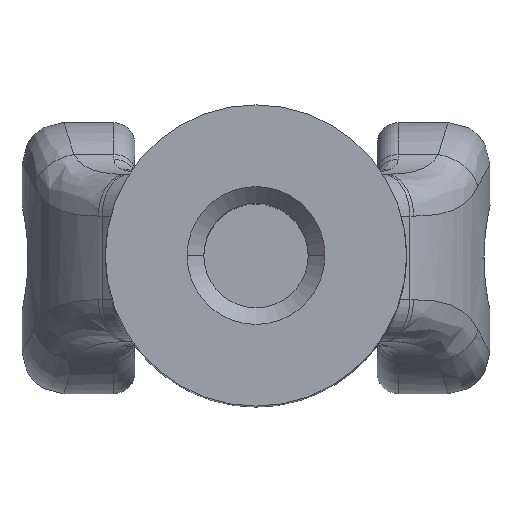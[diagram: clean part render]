
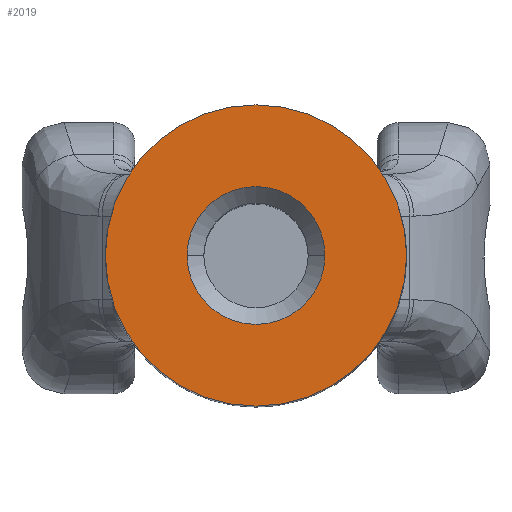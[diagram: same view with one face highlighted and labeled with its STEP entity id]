
A CAD part, top view. The second image highlights one B-rep face of the part: STEP entity #2019.
In plain terms, the highlighted planar face has unit normal (0, 0, 1).
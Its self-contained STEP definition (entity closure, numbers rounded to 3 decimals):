
#524 = DIRECTION ( 'NONE',  ( 1., 0., 0. ) ) ;
#751 = DIRECTION ( 'NONE',  ( 0., 0., -1. ) ) ;
#897 = DIRECTION ( 'NONE',  ( 1., 0., 0. ) ) ;
#920 = CIRCLE ( 'NONE', #6041, 1.65 ) ;
#1069 = CARTESIAN_POINT ( 'NONE',  ( 0., 0., 37. ) ) ;
#1084 = AXIS2_PLACEMENT_3D ( 'NONE', #5486, #3060, #3674 ) ;
#1177 = AXIS2_PLACEMENT_3D ( 'NONE', #3290, #4389, #897 ) ;
#1618 = AXIS2_PLACEMENT_3D ( 'NONE', #3651, #4204, #7184 ) ;
#1657 = AXIS2_PLACEMENT_3D ( 'NONE', #1069, #7463, #524 ) ;
#2005 = EDGE_CURVE ( 'NONE', #6727, #4428, #4680, .T. ) ;
#2019 = ADVANCED_FACE ( 'NONE', ( #4575, #2579 ), #2503, .T. ) ;
#2062 = EDGE_LOOP ( 'NONE', ( #6094, #3876 ) ) ;
#2503 = PLANE ( 'NONE',  #1618 ) ;
#2525 = EDGE_CURVE ( 'NONE', #6529, #6662, #7425, .T. ) ;
#2579 = FACE_OUTER_BOUND ( 'NONE', #5701, .T. ) ;
#3060 = DIRECTION ( 'NONE',  ( 0., 0., 1. ) ) ;
#3124 = CARTESIAN_POINT ( 'NONE',  ( 3.605, 0., 37. ) ) ;
#3290 = CARTESIAN_POINT ( 'NONE',  ( 0., 0., 37. ) ) ;
#3651 = CARTESIAN_POINT ( 'NONE',  ( 0., 0., 37. ) ) ;
#3665 = DIRECTION ( 'NONE',  ( 1., 0., 0. ) ) ;
#3674 = DIRECTION ( 'NONE',  ( 1., 0., 0. ) ) ;
#3876 = ORIENTED_EDGE ( 'NONE', *, *, #6745, .T. ) ;
#4146 = CARTESIAN_POINT ( 'NONE',  ( 1.65, 0., 37. ) ) ;
#4204 = DIRECTION ( 'NONE',  ( 0., 0., 1. ) ) ;
#4339 = CARTESIAN_POINT ( 'NONE',  ( -1.65, 0., 37. ) ) ;
#4389 = DIRECTION ( 'NONE',  ( 0., 0., -1. ) ) ;
#4428 = VERTEX_POINT ( 'NONE', #7368 ) ;
#4449 = ORIENTED_EDGE ( 'NONE', *, *, #4923, .T. ) ;
#4575 = FACE_BOUND ( 'NONE', #2062, .T. ) ;
#4680 = CIRCLE ( 'NONE', #1084, 3.605 ) ;
#4757 = CIRCLE ( 'NONE', #1657, 3.605 ) ;
#4802 = ORIENTED_EDGE ( 'NONE', *, *, #2005, .T. ) ;
#4923 = EDGE_CURVE ( 'NONE', #4428, #6727, #4757, .T. ) ;
#5486 = CARTESIAN_POINT ( 'NONE',  ( 0., 0., 37. ) ) ;
#5701 = EDGE_LOOP ( 'NONE', ( #4449, #4802 ) ) ;
#6041 = AXIS2_PLACEMENT_3D ( 'NONE', #7176, #751, #3665 ) ;
#6094 = ORIENTED_EDGE ( 'NONE', *, *, #2525, .T. ) ;
#6529 = VERTEX_POINT ( 'NONE', #4146 ) ;
#6662 = VERTEX_POINT ( 'NONE', #4339 ) ;
#6727 = VERTEX_POINT ( 'NONE', #3124 ) ;
#6745 = EDGE_CURVE ( 'NONE', #6662, #6529, #920, .T. ) ;
#7176 = CARTESIAN_POINT ( 'NONE',  ( 0., 0., 37. ) ) ;
#7184 = DIRECTION ( 'NONE',  ( 1., 0., 0. ) ) ;
#7368 = CARTESIAN_POINT ( 'NONE',  ( -3.605, 0., 37. ) ) ;
#7425 = CIRCLE ( 'NONE', #1177, 1.65 ) ;
#7463 = DIRECTION ( 'NONE',  ( 0., 0., 1. ) ) ;
